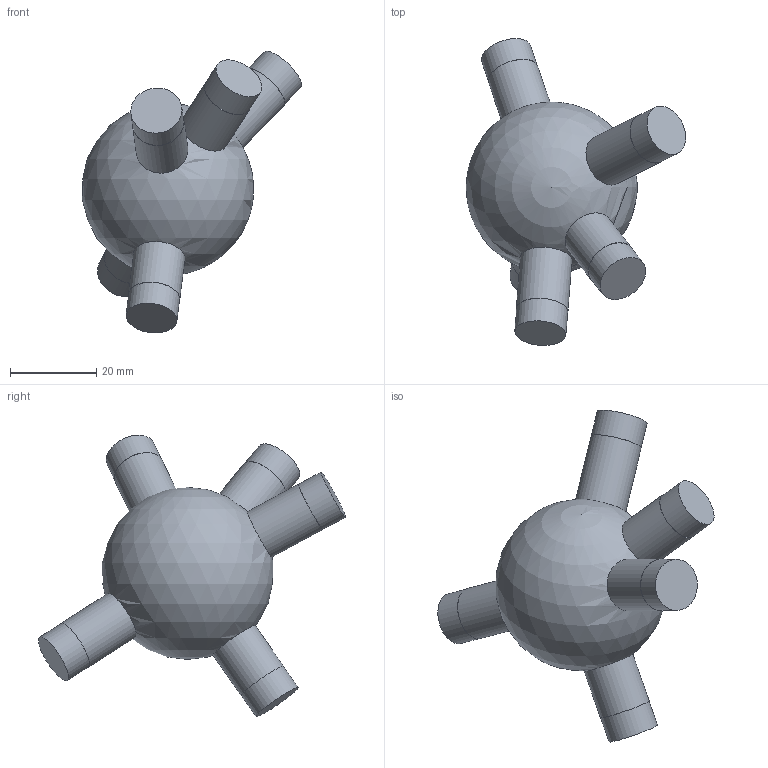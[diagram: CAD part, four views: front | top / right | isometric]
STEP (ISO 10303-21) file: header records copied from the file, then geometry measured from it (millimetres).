
FILE_DESCRIPTION(('Open CASCADE Model'),'2;1');
FILE_NAME('Open CASCADE Shape Model','2026-10-21T12:47:57',('Author'),( 'Open CASCADE'),'Open CASCADE STEP processor 7.9','Open CASCADE 7.9' ,'Unknown');
FILE_SCHEMA(('AUTOMOTIVE_DESIGN { 1 0 10303 214 1 1 1 1 }'));
Length unit declared in the file: millimetre
Products named in the file (1): Open CASCADE STEP translator 7.9 32
Bounding box: 51.01 x 71.37 x 65.45 mm (x, y, z)
Volume: 44077.9 mm3; surface area: 8632.6 mm2
Topology: 1 solids, 1 shells, 21 faces, 33 edges, 22 vertices
Faces by surface type: cylinder 10, plane 10, sphere 1
Full cylindrical faces by diameter (mm): 11.9 x5, 12 x5
Entity records: 1199 total; most frequent: CARTESIAN_POINT 474, DIRECTION 149, ORIENTED_EDGE 60, PCURVE 60, DEFINITIONAL_REPRESENTATION 60, LINE 50, VECTOR 50, AXIS2_PLACEMENT_3D 42
